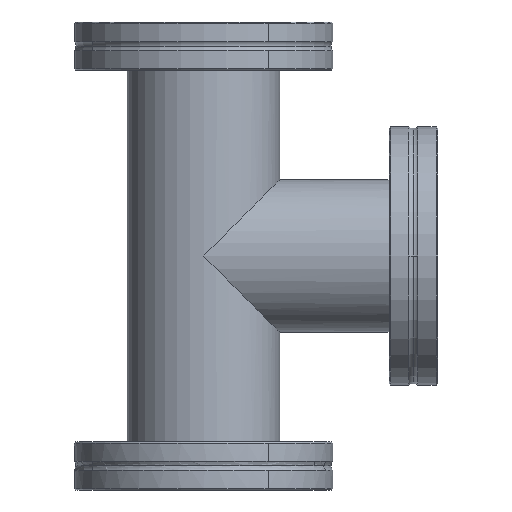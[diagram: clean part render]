
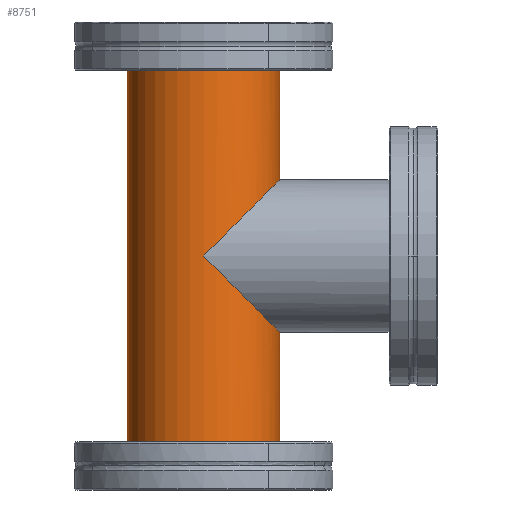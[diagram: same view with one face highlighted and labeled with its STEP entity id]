
A CAD part, front view. The second image highlights one B-rep face of the part: STEP entity #8751.
In plain terms, the highlighted cylindrical face has radius 20.5 mm (diameter 41 mm), a partial arc.
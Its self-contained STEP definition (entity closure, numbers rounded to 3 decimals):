
#512=CARTESIAN_POINT('',(-20.5,0.,57.494));
#513=VERTEX_POINT('',#512);
#514=CARTESIAN_POINT('',(-20.5,0.,-57.5));
#515=VERTEX_POINT('',#514);
#516=CARTESIAN_POINT('',(-20.5,0.,57.494));
#517=DIRECTION('',(0.0,0.0,-1.0));
#518=VECTOR('',#517,114.994);
#519=LINE('',#516,#518);
#520=EDGE_CURVE('',#513,#515,#519,.T.);
#522=CARTESIAN_POINT('',(20.5,0.,57.494));
#523=VERTEX_POINT('',#522);
#531=CARTESIAN_POINT('',(20.5,0.,20.5));
#532=VERTEX_POINT('',#531);
#533=CARTESIAN_POINT('',(20.5,0.,20.5));
#534=DIRECTION('',(0.0,0.0,1.0));
#535=VECTOR('',#534,36.994);
#536=LINE('',#533,#535);
#537=EDGE_CURVE('',#532,#523,#536,.T.);
#548=CARTESIAN_POINT('',(20.5,0.,-20.5));
#549=VERTEX_POINT('',#548);
#557=CARTESIAN_POINT('',(20.5,0.,-57.5));
#558=VERTEX_POINT('',#557);
#559=CARTESIAN_POINT('',(20.5,0.,-57.5));
#560=DIRECTION('',(0.0,0.0,1.0));
#561=VECTOR('',#560,37.);
#562=LINE('',#559,#561);
#563=EDGE_CURVE('',#558,#549,#562,.T.);
#5689=CARTESIAN_POINT('',(0.0,0.0,-57.5));
#5690=DIRECTION('',(0.0,0.0,1.0));
#5691=DIRECTION('',(-1.0,0.0,0.0));
#5692=AXIS2_PLACEMENT_3D('',#5689,#5690,#5691);
#5693=CIRCLE('',#5692,20.5);
#5694=EDGE_CURVE('',#515,#558,#5693,.T.);
#8564=CARTESIAN_POINT('',(0.0,0.0,57.494));
#8565=DIRECTION('',(0.0,0.0,-1.0));
#8566=DIRECTION('',(-1.0,0.0,0.0));
#8567=AXIS2_PLACEMENT_3D('',#8564,#8565,#8566);
#8568=CIRCLE('',#8567,20.5);
#8569=EDGE_CURVE('',#523,#513,#8568,.T.);
#8718=CARTESIAN_POINT('',(0.0,-20.5,0.0));
#8719=VERTEX_POINT('',#8718);
#8720=CARTESIAN_POINT('',(0.0,0.0,0.0));
#8721=DIRECTION('',(0.707,0.0,-0.707));
#8722=DIRECTION('',(0.707,0.0,0.707));
#8723=AXIS2_PLACEMENT_3D('',#8720,#8721,#8722);
#8724=ELLIPSE('',#8723,28.991,20.5);
#8725=EDGE_CURVE('',#532,#8719,#8724,.T.);
#8727=CARTESIAN_POINT('',(0.0,0.0,0.0));
#8728=DIRECTION('',(-0.707,0.0,-0.707));
#8729=DIRECTION('',(0.707,0.0,-0.707));
#8730=AXIS2_PLACEMENT_3D('',#8727,#8728,#8729);
#8731=ELLIPSE('',#8730,28.991,20.5);
#8732=EDGE_CURVE('',#549,#8719,#8731,.T.);
#8737=CARTESIAN_POINT('',(0.0,0.0,0.0));
#8738=DIRECTION('',(0.0,0.0,-1.0));
#8739=DIRECTION('',(-1.0,0.0,0.0));
#8740=AXIS2_PLACEMENT_3D('',#8737,#8738,#8739);
#8741=CYLINDRICAL_SURFACE('',#8740,20.5);
#8742=ORIENTED_EDGE('',*,*,#520,.T.);
#8743=ORIENTED_EDGE('',*,*,#5694,.T.);
#8744=ORIENTED_EDGE('',*,*,#563,.T.);
#8745=ORIENTED_EDGE('',*,*,#8732,.T.);
#8746=ORIENTED_EDGE('',*,*,#8725,.F.);
#8747=ORIENTED_EDGE('',*,*,#537,.T.);
#8748=ORIENTED_EDGE('',*,*,#8569,.T.);
#8749=EDGE_LOOP('',(#8742,#8743,#8744,#8745,#8746,#8747,#8748));
#8750=FACE_OUTER_BOUND('',#8749,.T.);
#8751=ADVANCED_FACE('',(#8750),#8741,.T.);
